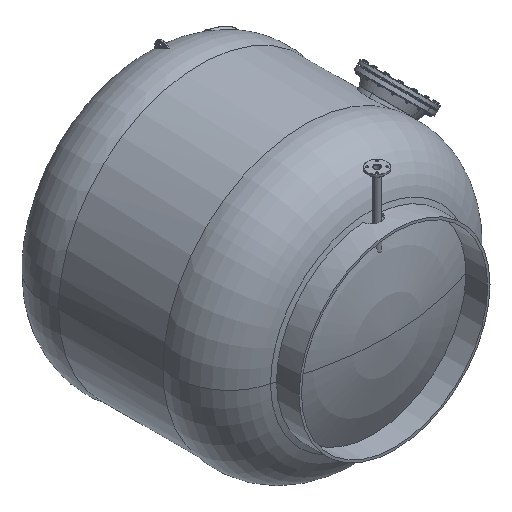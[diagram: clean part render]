
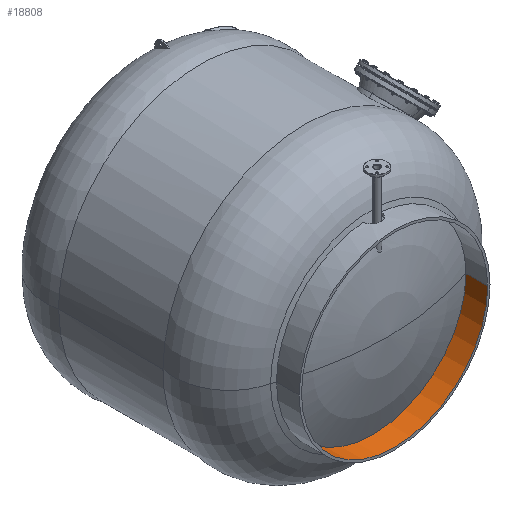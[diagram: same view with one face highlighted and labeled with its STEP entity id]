
A CAD part, isometric view. The second image highlights one B-rep face of the part: STEP entity #18808.
In plain terms, the highlighted cylindrical face has radius 800 mm (diameter 1600 mm), a partial arc.
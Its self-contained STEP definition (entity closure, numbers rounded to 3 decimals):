
#236 = DIRECTION ( 'NONE',  ( 0., -1., 0. ) ) ;
#6998 = CARTESIAN_POINT ( 'NONE',  ( 50., 187., -820. ) ) ;
#7196 = CARTESIAN_POINT ( 'NONE',  ( 850., 0., -820. ) ) ;
#10050 = CARTESIAN_POINT ( 'NONE',  ( 50., 187., -820. ) ) ;
#11076 = CARTESIAN_POINT ( 'NONE',  ( 850., 187., -820. ) ) ;
#17008 = VERTEX_POINT ( 'NONE', #21581 ) ;
#18808 = ADVANCED_FACE ( 'NONE', ( #87828 ), #27436, .F. ) ;
#21143 = ORIENTED_EDGE ( 'NONE', *, *, #81514, .T. ) ;
#21581 = CARTESIAN_POINT ( 'NONE',  ( 50., 0., -820. ) ) ;
#22309 = DIRECTION ( 'NONE',  ( 0., 1., 0. ) ) ;
#24662 = EDGE_CURVE ( 'NONE', #73885, #36397, #67978, .T. ) ;
#25391 = LINE ( 'NONE', #6998, #68335 ) ;
#27436 = CYLINDRICAL_SURFACE ( 'NONE', #29671, 800. ) ;
#29254 = EDGE_CURVE ( 'NONE', #55591, #17008, #25391, .T. ) ;
#29671 = AXIS2_PLACEMENT_3D ( 'NONE', #36348, #87305, #44770 ) ;
#34688 = CARTESIAN_POINT ( 'NONE',  ( 1650., 187., -820. ) ) ;
#36348 = CARTESIAN_POINT ( 'NONE',  ( 850., 0., -820. ) ) ;
#36397 = VERTEX_POINT ( 'NONE', #82021 ) ;
#44606 = DIRECTION ( 'NONE',  ( 1., 0., 0. ) ) ;
#44770 = DIRECTION ( 'NONE',  ( 1., 0., 0. ) ) ;
#51446 = AXIS2_PLACEMENT_3D ( 'NONE', #7196, #22309, #75450 ) ;
#55322 = ORIENTED_EDGE ( 'NONE', *, *, #29254, .T. ) ;
#55591 = VERTEX_POINT ( 'NONE', #10050 ) ;
#62548 = EDGE_LOOP ( 'NONE', ( #21143, #55322, #92403, #109497 ) ) ;
#62792 = AXIS2_PLACEMENT_3D ( 'NONE', #11076, #98304, #44606 ) ;
#63215 = EDGE_CURVE ( 'NONE', #36397, #17008, #71126, .T. ) ;
#67978 = LINE ( 'NONE', #83624, #97117 ) ;
#68335 = VECTOR ( 'NONE', #236, 1000. ) ;
#71126 = CIRCLE ( 'NONE', #51446, 800. ) ;
#73885 = VERTEX_POINT ( 'NONE', #34688 ) ;
#75450 = DIRECTION ( 'NONE',  ( 1., 0., 0. ) ) ;
#81514 = EDGE_CURVE ( 'NONE', #73885, #55591, #107597, .T. ) ;
#82021 = CARTESIAN_POINT ( 'NONE',  ( 1650., 0., -820. ) ) ;
#82484 = DIRECTION ( 'NONE',  ( 0., -1., 0. ) ) ;
#83624 = CARTESIAN_POINT ( 'NONE',  ( 1650., 187., -820. ) ) ;
#87305 = DIRECTION ( 'NONE',  ( 0., -1., 0. ) ) ;
#87828 = FACE_OUTER_BOUND ( 'NONE', #62548, .T. ) ;
#92403 = ORIENTED_EDGE ( 'NONE', *, *, #63215, .F. ) ;
#97117 = VECTOR ( 'NONE', #82484, 1000. ) ;
#98304 = DIRECTION ( 'NONE',  ( 0., 1., 0. ) ) ;
#107597 = CIRCLE ( 'NONE', #62792, 800. ) ;
#109497 = ORIENTED_EDGE ( 'NONE', *, *, #24662, .F. ) ;
